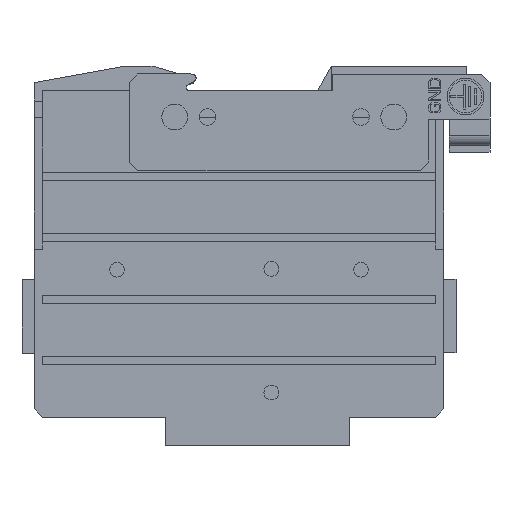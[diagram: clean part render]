
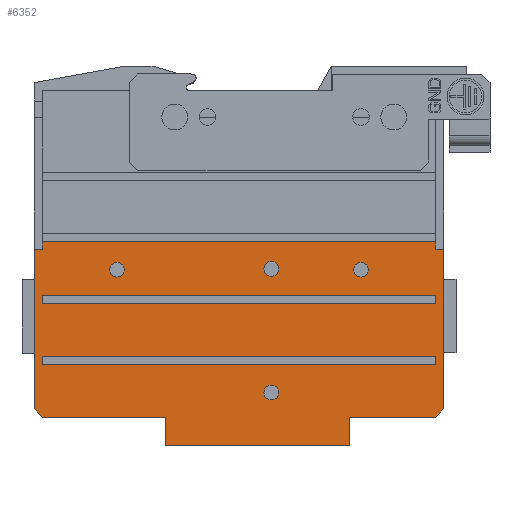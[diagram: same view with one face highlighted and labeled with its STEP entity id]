
A CAD part, left-side view. The second image highlights one B-rep face of the part: STEP entity #6352.
In plain terms, the highlighted planar face has unit normal (-1, 0, 0).
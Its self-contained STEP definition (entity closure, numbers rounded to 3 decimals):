
#61=DIRECTION('',(0.,0.,1.));
#62=VECTOR('',#61,7.);
#63=CARTESIAN_POINT('',(0.,28.5,-92.7));
#64=LINE('',#63,#62);
#69=DIRECTION('',(0.,0.,-1.));
#70=VECTOR('',#69,2.);
#71=CARTESIAN_POINT('',(0.,7.5,-70.9));
#72=LINE('',#71,#70);
#73=DIRECTION('',(0.,0.,-1.));
#74=VECTOR('',#73,2.);
#75=CARTESIAN_POINT('',(0.,103.5,-70.9));
#76=LINE('',#75,#74);
#77=CARTESIAN_POINT('',(0.,47.6,-79.7));
#78=DIRECTION('',(-1.,0.,0.));
#79=DIRECTION('',(0.,0.,1.));
#80=AXIS2_PLACEMENT_3D('',#77,#78,#79);
#82=CARTESIAN_POINT('',(0.,47.6,-79.7));
#83=DIRECTION('',(-1.,0.,0.));
#84=DIRECTION('',(0.,0.,-1.));
#85=AXIS2_PLACEMENT_3D('',#82,#83,#84);
#87=DIRECTION('',(0.,0.,1.));
#88=VECTOR('',#87,1.8);
#89=CARTESIAN_POINT('',(0.,103.5,-44.7));
#90=LINE('',#89,#88);
#91=DIRECTION('',(0.,0.,-1.));
#92=VECTOR('',#91,1.8);
#93=CARTESIAN_POINT('',(0.,7.5,-42.9));
#94=LINE('',#93,#92);
#95=DIRECTION('',(0.,0.707,-0.707));
#96=VECTOR('',#95,2.828);
#97=CARTESIAN_POINT('',(0.,5.5,-83.7));
#98=LINE('',#97,#96);
#99=DIRECTION('',(0.,1.,0.));
#100=VECTOR('',#99,21.);
#101=CARTESIAN_POINT('',(0.,7.5,-85.7));
#102=LINE('',#101,#100);
#103=DIRECTION('',(0.,1.,0.));
#104=VECTOR('',#103,45.);
#105=CARTESIAN_POINT('',(0.,28.5,-92.7));
#106=LINE('',#105,#104);
#107=DIRECTION('',(0.,0.,1.));
#108=VECTOR('',#107,7.);
#109=CARTESIAN_POINT('',(0.,73.5,-92.7));
#110=LINE('',#109,#108);
#111=DIRECTION('',(0.,1.,0.));
#112=VECTOR('',#111,30.);
#113=CARTESIAN_POINT('',(0.,73.5,-85.7));
#114=LINE('',#113,#112);
#115=DIRECTION('',(0.,0.707,0.707));
#116=VECTOR('',#115,2.828);
#117=CARTESIAN_POINT('',(0.,103.5,-85.7));
#118=LINE('',#117,#116);
#119=CARTESIAN_POINT('',(0.,25.7,-49.7));
#120=DIRECTION('',(-1.,0.,0.));
#121=DIRECTION('',(0.,0.,1.));
#122=AXIS2_PLACEMENT_3D('',#119,#120,#121);
#124=CARTESIAN_POINT('',(0.,25.7,-49.7));
#125=DIRECTION('',(-1.,0.,0.));
#126=DIRECTION('',(0.,0.,-1.));
#127=AXIS2_PLACEMENT_3D('',#124,#125,#126);
#129=CARTESIAN_POINT('',(0.,47.6,-49.5));
#130=DIRECTION('',(-1.,0.,0.));
#131=DIRECTION('',(0.,0.,1.));
#132=AXIS2_PLACEMENT_3D('',#129,#130,#131);
#134=CARTESIAN_POINT('',(0.,47.6,-49.5));
#135=DIRECTION('',(-1.,0.,0.));
#136=DIRECTION('',(0.,0.,-1.));
#137=AXIS2_PLACEMENT_3D('',#134,#135,#136);
#139=CARTESIAN_POINT('',(0.,85.3,-49.7));
#140=DIRECTION('',(-1.,0.,0.));
#141=DIRECTION('',(0.,0.,1.));
#142=AXIS2_PLACEMENT_3D('',#139,#140,#141);
#144=CARTESIAN_POINT('',(0.,85.3,-49.7));
#145=DIRECTION('',(-1.,0.,0.));
#146=DIRECTION('',(0.,0.,-1.));
#147=AXIS2_PLACEMENT_3D('',#144,#145,#146);
#149=DIRECTION('',(0.,0.,-1.));
#150=VECTOR('',#149,2.);
#151=CARTESIAN_POINT('',(0.,103.5,-55.9));
#152=LINE('',#151,#150);
#153=DIRECTION('',(0.,0.,-1.));
#154=VECTOR('',#153,2.);
#155=CARTESIAN_POINT('',(0.,7.5,-55.9));
#156=LINE('',#155,#154);
#255=DIRECTION('',(0.,1.,0.));
#256=VECTOR('',#255,96.);
#257=CARTESIAN_POINT('',(0.,7.5,-57.9));
#258=LINE('',#257,#256);
#325=DIRECTION('',(0.,-1.,0.));
#326=VECTOR('',#325,96.);
#327=CARTESIAN_POINT('',(0.,103.5,-55.9));
#328=LINE('',#327,#326);
#349=DIRECTION('',(0.,-1.,0.));
#350=VECTOR('',#349,96.);
#351=CARTESIAN_POINT('',(0.,103.5,-70.9));
#352=LINE('',#351,#350);
#373=DIRECTION('',(0.,1.,0.));
#374=VECTOR('',#373,96.);
#375=CARTESIAN_POINT('',(0.,7.5,-72.9));
#376=LINE('',#375,#374);
#389=DIRECTION('',(0.,1.,0.));
#390=VECTOR('',#389,2.);
#391=CARTESIAN_POINT('',(0.,103.5,-44.7));
#392=LINE('',#391,#390);
#393=DIRECTION('',(0.,1.,0.));
#394=VECTOR('',#393,2.);
#395=CARTESIAN_POINT('',(0.,5.5,-44.7));
#396=LINE('',#395,#394);
#409=DIRECTION('',(0.,0.,-1.));
#410=VECTOR('',#409,39.);
#411=CARTESIAN_POINT('',(0.,105.5,-44.7));
#412=LINE('',#411,#410);
#649=DIRECTION('',(0.,0.,1.));
#650=VECTOR('',#649,39.);
#651=CARTESIAN_POINT('',(0.,5.5,-83.7));
#652=LINE('',#651,#650);
#2689=DIRECTION('',(0.,1.,0.));
#2690=VECTOR('',#2689,96.);
#2691=CARTESIAN_POINT('',(0.,7.5,-42.9));
#2692=LINE('',#2691,#2690);
#4644=CARTESIAN_POINT('',(0.,73.5,-85.7));
#4646=VERTEX_POINT('',#4644);
#4657=CARTESIAN_POINT('',(0.,103.5,-85.7));
#4658=VERTEX_POINT('',#4657);
#4660=CARTESIAN_POINT('',(0.,7.5,-85.7));
#4662=VERTEX_POINT('',#4660);
#4673=CARTESIAN_POINT('',(0.,28.5,-85.7));
#4674=VERTEX_POINT('',#4673);
#4675=CARTESIAN_POINT('',(0.,73.5,-92.7));
#4676=VERTEX_POINT('',#4675);
#4749=CARTESIAN_POINT('',(0.,28.5,-92.7));
#4750=VERTEX_POINT('',#4749);
#4751=CARTESIAN_POINT('',(0.,5.5,-83.7));
#4752=VERTEX_POINT('',#4751);
#4753=CARTESIAN_POINT('',(0.,105.5,-83.7));
#4754=VERTEX_POINT('',#4753);
#4755=CARTESIAN_POINT('',(0.,105.5,-44.7));
#4756=VERTEX_POINT('',#4755);
#4889=CARTESIAN_POINT('',(0.,5.5,-44.7));
#4890=VERTEX_POINT('',#4889);
#5366=CARTESIAN_POINT('',(0.,7.5,-42.9));
#5368=VERTEX_POINT('',#5366);
#5383=CARTESIAN_POINT('',(0.,103.5,-42.9));
#5384=VERTEX_POINT('',#5383);
#5385=CARTESIAN_POINT('',(0.,85.3,-47.9));
#5386=CARTESIAN_POINT('',(0.,85.3,-51.5));
#5387=VERTEX_POINT('',#5385);
#5388=VERTEX_POINT('',#5386);
#5389=CARTESIAN_POINT('',(0.,47.6,-47.7));
#5390=CARTESIAN_POINT('',(0.,47.6,-51.3));
#5391=VERTEX_POINT('',#5389);
#5392=VERTEX_POINT('',#5390);
#5393=CARTESIAN_POINT('',(0.,25.7,-47.9));
#5394=CARTESIAN_POINT('',(0.,25.7,-51.5));
#5395=VERTEX_POINT('',#5393);
#5396=VERTEX_POINT('',#5394);
#5397=CARTESIAN_POINT('',(0.,47.6,-77.9));
#5398=CARTESIAN_POINT('',(0.,47.6,-81.5));
#5399=VERTEX_POINT('',#5397);
#5400=VERTEX_POINT('',#5398);
#6009=CARTESIAN_POINT('',(0.,103.5,-55.9));
#6010=CARTESIAN_POINT('',(0.,103.5,-57.9));
#6011=VERTEX_POINT('',#6009);
#6012=VERTEX_POINT('',#6010);
#6013=CARTESIAN_POINT('',(0.,103.5,-70.9));
#6014=CARTESIAN_POINT('',(0.,103.5,-72.9));
#6015=VERTEX_POINT('',#6013);
#6016=VERTEX_POINT('',#6014);
#6017=CARTESIAN_POINT('',(0.,7.5,-55.9));
#6018=CARTESIAN_POINT('',(0.,7.5,-57.9));
#6019=VERTEX_POINT('',#6017);
#6020=VERTEX_POINT('',#6018);
#6021=CARTESIAN_POINT('',(0.,7.5,-70.9));
#6022=CARTESIAN_POINT('',(0.,7.5,-72.9));
#6023=VERTEX_POINT('',#6021);
#6024=VERTEX_POINT('',#6022);
#6025=CARTESIAN_POINT('',(0.,103.5,-44.7));
#6027=VERTEX_POINT('',#6025);
#6029=CARTESIAN_POINT('',(0.,7.5,-44.7));
#6031=VERTEX_POINT('',#6029);
#6277=CARTESIAN_POINT('',(0.,55.5,-68.7));
#6278=DIRECTION('',(1.,0.,0.));
#6279=DIRECTION('',(0.,-1.,0.));
#6280=AXIS2_PLACEMENT_3D('',#6277,#6278,#6279);
#6281=PLANE('',#6280);
#6283=ORIENTED_EDGE('',*,*,#6282,.F.);
#6285=ORIENTED_EDGE('',*,*,#6284,.T.);
#6287=ORIENTED_EDGE('',*,*,#6286,.F.);
#6289=ORIENTED_EDGE('',*,*,#6288,.T.);
#6291=ORIENTED_EDGE('',*,*,#6290,.F.);
#6293=ORIENTED_EDGE('',*,*,#6292,.F.);
#6295=ORIENTED_EDGE('',*,*,#6294,.T.);
#6297=ORIENTED_EDGE('',*,*,#6296,.T.);
#6298=ORIENTED_EDGE('',*,*,#6270,.F.);
#6299=ORIENTED_EDGE('',*,*,#6217,.T.);
#6300=ORIENTED_EDGE('',*,*,#6161,.T.);
#6301=ORIENTED_EDGE('',*,*,#6148,.T.);
#6303=ORIENTED_EDGE('',*,*,#6302,.T.);
#6305=ORIENTED_EDGE('',*,*,#6304,.F.);
#6306=EDGE_LOOP('',(#6283,#6285,#6287,#6289,#6291,#6293,#6295,#6297,#6298,#6299,
#6300,#6301,#6303,#6305));
#6307=FACE_OUTER_BOUND('',#6306,.F.);
#6309=ORIENTED_EDGE('',*,*,#6308,.T.);
#6311=ORIENTED_EDGE('',*,*,#6310,.T.);
#6312=EDGE_LOOP('',(#6309,#6311));
#6313=FACE_BOUND('',#6312,.F.);
#6315=ORIENTED_EDGE('',*,*,#6314,.F.);
#6317=ORIENTED_EDGE('',*,*,#6316,.F.);
#6319=ORIENTED_EDGE('',*,*,#6318,.T.);
#6321=ORIENTED_EDGE('',*,*,#6320,.F.);
#6322=EDGE_LOOP('',(#6315,#6317,#6319,#6321));
#6323=FACE_BOUND('',#6322,.F.);
#6325=ORIENTED_EDGE('',*,*,#6324,.T.);
#6327=ORIENTED_EDGE('',*,*,#6326,.T.);
#6328=EDGE_LOOP('',(#6325,#6327));
#6329=FACE_BOUND('',#6328,.F.);
#6331=ORIENTED_EDGE('',*,*,#6330,.T.);
#6333=ORIENTED_EDGE('',*,*,#6332,.T.);
#6334=EDGE_LOOP('',(#6331,#6333));
#6335=FACE_BOUND('',#6334,.F.);
#6337=ORIENTED_EDGE('',*,*,#6336,.T.);
#6339=ORIENTED_EDGE('',*,*,#6338,.T.);
#6340=EDGE_LOOP('',(#6337,#6339));
#6341=FACE_BOUND('',#6340,.F.);
#6343=ORIENTED_EDGE('',*,*,#6342,.T.);
#6345=ORIENTED_EDGE('',*,*,#6344,.F.);
#6347=ORIENTED_EDGE('',*,*,#6346,.F.);
#6349=ORIENTED_EDGE('',*,*,#6348,.F.);
#6350=EDGE_LOOP('',(#6343,#6345,#6347,#6349));
#6351=FACE_BOUND('',#6350,.F.);
#81=CIRCLE('',#80,1.8);
#86=CIRCLE('',#85,1.8);
#123=CIRCLE('',#122,1.8);
#128=CIRCLE('',#127,1.8);
#133=CIRCLE('',#132,1.8);
#138=CIRCLE('',#137,1.8);
#143=CIRCLE('',#142,1.8);
#148=CIRCLE('',#147,1.8);
#6148=EDGE_CURVE('',#4646,#4658,#114,.T.);
#6161=EDGE_CURVE('',#4676,#4646,#110,.T.);
#6217=EDGE_CURVE('',#4750,#4676,#106,.T.);
#6270=EDGE_CURVE('',#4750,#4674,#64,.T.);
#6282=EDGE_CURVE('',#6027,#4756,#392,.T.);
#6284=EDGE_CURVE('',#6027,#5384,#90,.T.);
#6286=EDGE_CURVE('',#5368,#5384,#2692,.T.);
#6288=EDGE_CURVE('',#5368,#6031,#94,.T.);
#6290=EDGE_CURVE('',#4890,#6031,#396,.T.);
#6292=EDGE_CURVE('',#4752,#4890,#652,.T.);
#6294=EDGE_CURVE('',#4752,#4662,#98,.T.);
#6296=EDGE_CURVE('',#4662,#4674,#102,.T.);
#6302=EDGE_CURVE('',#4658,#4754,#118,.T.);
#6304=EDGE_CURVE('',#4756,#4754,#412,.T.);
#6308=EDGE_CURVE('',#5399,#5400,#81,.T.);
#6310=EDGE_CURVE('',#5400,#5399,#86,.T.);
#6314=EDGE_CURVE('',#6023,#6024,#72,.T.);
#6316=EDGE_CURVE('',#6015,#6023,#352,.T.);
#6318=EDGE_CURVE('',#6015,#6016,#76,.T.);
#6320=EDGE_CURVE('',#6024,#6016,#376,.T.);
#6324=EDGE_CURVE('',#5395,#5396,#123,.T.);
#6326=EDGE_CURVE('',#5396,#5395,#128,.T.);
#6330=EDGE_CURVE('',#5391,#5392,#133,.T.);
#6332=EDGE_CURVE('',#5392,#5391,#138,.T.);
#6336=EDGE_CURVE('',#5387,#5388,#143,.T.);
#6338=EDGE_CURVE('',#5388,#5387,#148,.T.);
#6342=EDGE_CURVE('',#6011,#6012,#152,.T.);
#6344=EDGE_CURVE('',#6020,#6012,#258,.T.);
#6346=EDGE_CURVE('',#6019,#6020,#156,.T.);
#6348=EDGE_CURVE('',#6011,#6019,#328,.T.);
#6352=ADVANCED_FACE('',(#6307,#6313,#6323,#6329,#6335,#6341,#6351),#6281,.F.);
